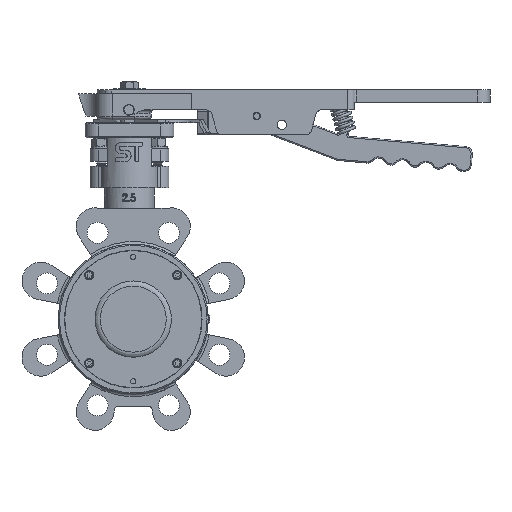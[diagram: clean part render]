
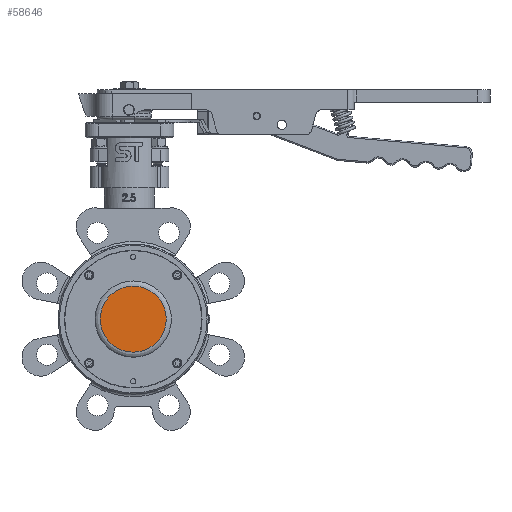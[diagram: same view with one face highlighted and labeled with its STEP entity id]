
A CAD part, front view. The second image highlights one B-rep face of the part: STEP entity #58646.
In plain terms, the highlighted planar face has unit normal (0, -1, 0).
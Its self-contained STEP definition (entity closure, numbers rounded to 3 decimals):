
#58541 = TOROIDAL_SURFACE('',#58542,26.385,5.);
#58542 = AXIS2_PLACEMENT_3D('',#58543,#58544,#58545);
#58543 = CARTESIAN_POINT('',(0.,-18.,0.
    ));
#58544 = DIRECTION('',(0.,1.,0.));
#58545 = DIRECTION('',(1.,0.,0.));
#58646 = ADVANCED_FACE('',(#58647),#58660,.F.);
#58647 = FACE_BOUND('',#58648,.T.);
#58648 = EDGE_LOOP('',(#58649));
#58649 = ORIENTED_EDGE('',*,*,#58650,.F.);
#58650 = EDGE_CURVE('',#58651,#58651,#58653,.T.);
#58651 = VERTEX_POINT('',#58652);
#58652 = CARTESIAN_POINT('',(26.385,-23.,0.));
#58653 = SURFACE_CURVE('',#58654,(#58659,#58671),.PCURVE_S1.);
#58654 = CIRCLE('',#58655,26.385);
#58655 = AXIS2_PLACEMENT_3D('',#58656,#58657,#58658);
#58656 = CARTESIAN_POINT('',(0.,-23.,
    0.));
#58657 = DIRECTION('',(0.,1.,0.));
#58658 = DIRECTION('',(1.,0.,0.));
#58659 = PCURVE('',#58660,#58665);
#58660 = PLANE('',#58661);
#58661 = AXIS2_PLACEMENT_3D('',#58662,#58663,#58664);
#58662 = CARTESIAN_POINT('',(0.,-23.,29.132));
#58663 = DIRECTION('',(0.,1.,0.));
#58664 = DIRECTION('',(1.,0.,0.));
#58665 = DEFINITIONAL_REPRESENTATION('',(#58666),#58670);
#58666 = CIRCLE('',#58667,26.385);
#58667 = AXIS2_PLACEMENT_2D('',#58668,#58669);
#58668 = CARTESIAN_POINT('',(0.,29.132));
#58669 = DIRECTION('',(1.,0.));
#58670 = ( GEOMETRIC_REPRESENTATION_CONTEXT(2) 
PARAMETRIC_REPRESENTATION_CONTEXT() REPRESENTATION_CONTEXT('2D SPACE',''
  ) );
#58671 = PCURVE('',#58541,#58672);
#58672 = DEFINITIONAL_REPRESENTATION('',(#58673),#58677);
#58673 = LINE('',#58674,#58675);
#58674 = CARTESIAN_POINT('',(0.,4.712));
#58675 = VECTOR('',#58676,1.);
#58676 = DIRECTION('',(1.,0.));
#58677 = ( GEOMETRIC_REPRESENTATION_CONTEXT(2) 
PARAMETRIC_REPRESENTATION_CONTEXT() REPRESENTATION_CONTEXT('2D SPACE',''
  ) );
